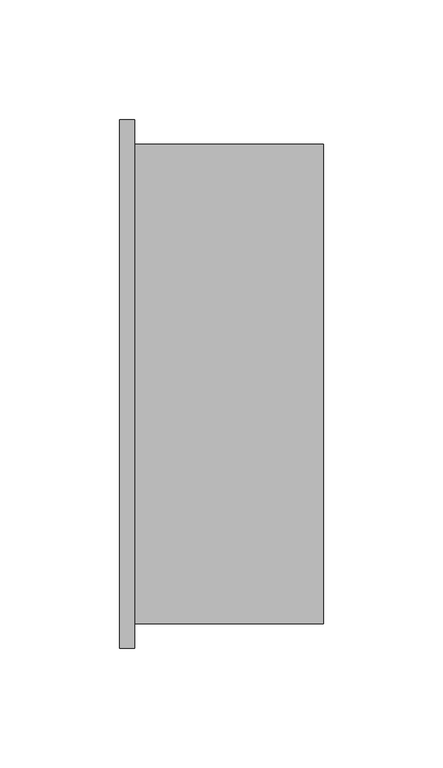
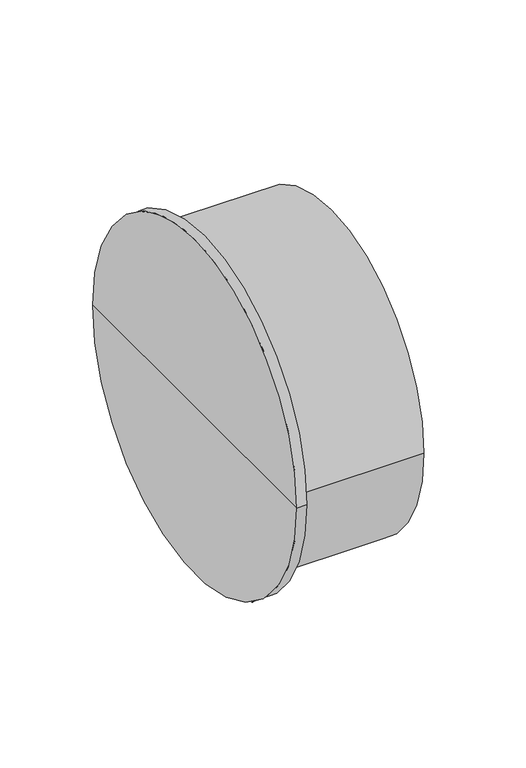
"""IFC4 building model written with IfcOpenShell, lengths in millimetres: pipe fitting geometry, OSMA_KG2000_PPKGM : Hrdlová zátka."""

from ifc_helpers import new_model, si_unit, frame, origin, place, context, project, spatial, circle_curve, source, transform, mapped, element, save
from ifc_brep_helpers import plane_surface, cylinder_surface, advanced_brep


def pipe_fitting_346920e7(model_context):
    return source(origin(), model_context, "Body", "AdvancedBrep", [
        advanced_brep(
        [(85.0, -100.0, 0.0), (85.0, 100.0, 0.0), (85.0, 0.0, 0.0), (6.2, -100.0, 0.0), (6.2, 100.0, 0.0), (6.2, -110.2, 0.0), (6.2, 110.2, 0.0), (0.0, -110.2, 0.0), (0.0, 110.2, 0.0), (0.0, 0.0, 0.0)],
        [
            (0, 1, circle_curve(frame((85.0, 0.0, 0.0), z_axis=(1.0, 0.0, 0.0), x_axis=(0.0, 1.0, 0.0)), 100.0)),
            (1, 2),
            (2, 0),
            (1, 0, circle_curve(frame((85.0, 0.0, 0.0), z_axis=(1.0, 0.0, 0.0), x_axis=(0.0, 1.0, 0.0)), 100.0)),
            (3, 4, circle_curve(frame((6.2, 0.0, 0.0), z_axis=(1.0, 0.0, 0.0), x_axis=(0.0, 1.0, 0.0)), 100.0)),
            (4, 1),
            (0, 3),
            (4, 3, circle_curve(frame((6.2, 0.0, 0.0), z_axis=(1.0, 0.0, 0.0), x_axis=(0.0, 1.0, 0.0)), 100.0)),
            (5, 6, circle_curve(frame((6.2, 0.0, 0.0), z_axis=(1.0, 0.0, 0.0), x_axis=(0.0, 1.0, 0.0)), 110.2)),
            (6, 4),
            (3, 5),
            (6, 5, circle_curve(frame((6.2, 0.0, 0.0), z_axis=(1.0, 0.0, 0.0), x_axis=(0.0, 1.0, 0.0)), 110.2)),
            (7, 8, circle_curve(frame((0.0, 0.0, 0.0), z_axis=(1.0, 0.0, 0.0), x_axis=(0.0, 1.0, 0.0)), 110.2)),
            (8, 6),
            (5, 7),
            (8, 7, circle_curve(frame((0.0, 0.0, 0.0), z_axis=(1.0, 0.0, 0.0), x_axis=(0.0, 1.0, 0.0)), 110.2)),
            (9, 8),
            (7, 9),
        ],
        [
            plane_surface(frame((85.0, 0.0, 0.0), z_axis=(1.0, 0.0, 0.0), x_axis=(0.0, 1.0, 0.0))),
            cylinder_surface(frame((2030.0, 0.0, 0.0), z_axis=(-1.0, 0.0, 0.0), x_axis=(0.0, 1.0, 0.0)), 100.0),
            plane_surface(frame((6.2, 0.0, 0.0), z_axis=(1.0, 0.0, 0.0), x_axis=(0.0, 1.0, 0.0))),
            cylinder_surface(frame((2030.0, 0.0, 0.0), z_axis=(-1.0, 0.0, 0.0), x_axis=(0.0, 1.0, 0.0)), 110.2),
            plane_surface(frame((0.0, 0.0, 0.0), z_axis=(-1.0, 0.0, 0.0), x_axis=(0.0, 1.0, 0.0))),
        ],
        [
            (0, [[1, 2, 3]]),
            (0, [[4, -3, -2]]),
            (1, [[5, 6, -1, 7]]),
            (1, [[8, -7, -4, -6]]),
            (2, [[9, 10, -5, 11]]),
            (2, [[12, -11, -8, -10]]),
            (3, [[13, 14, -9, 15]]),
            (3, [[16, -15, -12, -14]]),
            (4, [[17, -13, 18]]),
            (4, [[-18, -16, -17]]),
        ],
    ),
    ])


if __name__ == "__main__":
    model = new_model("IFC4")
    model_context = context("Model", 3, world=origin())
    ifc_project = project(units=[si_unit("LENGTHUNIT", "METRE", prefix="MILLI")], contexts=[model_context])
    site = spatial("IfcSite", under=ifc_project)
    building = spatial("IfcBuilding", under=site)
    placement = place(None, origin())
    pipe_fitting_shape = pipe_fitting_346920e7(model_context)
    element("IfcPipeFitting", 1, ObjectType="OSMA_KG2000_PPKGM : Hrdlová zátka", at=placement, inside=building, context=model_context, shape_type="MappedRepresentation", body=[
        mapped(pipe_fitting_shape, transform((0.0, 0.0, 0.0), x_axis=(1.0, 0.0, 0.0), y_axis=(0.0, 1.0, 0.0), z_axis=(0.0, 0.0, 1.0))),
    ])
    save(model, "model.ifc")
